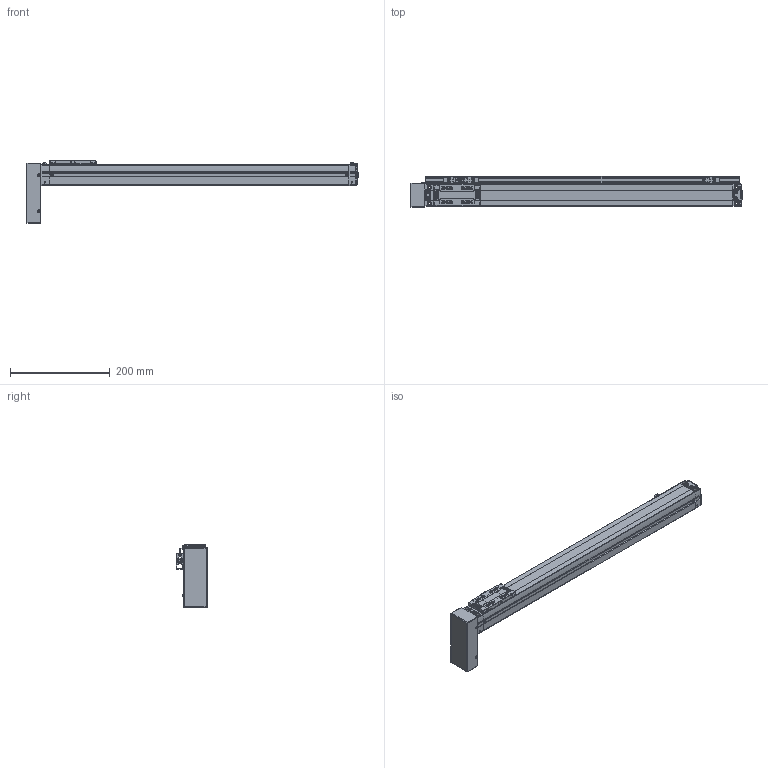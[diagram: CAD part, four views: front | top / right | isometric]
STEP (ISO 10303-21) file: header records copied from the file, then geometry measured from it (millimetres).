
FILE_DESCRIPTION(('STEP AP214'),'1');
FILE_NAME('Z:/Web/3D/SAN45/2013.ver/STP/SAN45ㅁㅁ-500PB+3SL.stp','2013-05-15T12:07:39',(' '),(' '),'Spatial InterOp 3D',' ',' ');
FILE_SCHEMA(('automotive_design'));
Length unit declared in the file: millimetre
Products named in the file (46): BODY-SAN45; REAR-SAN45; RRCV-SAN45; BHCS M3 x 6L; BHCS M3 X 6L; FRONT-SAN45; SHAFT; RN8 x 0.75; SSFX-SAN45; SLIDE-SAN45; SLCV-IM45; FHCS M3 x 6L; BTCV-SAN45; SRL-16x17-380L; EE-SX674; SBK-SX674-352; SDG-SA45; SCREW M3 x 5L
Bounding box: 666.15 x 64.06 x 126 mm (x, y, z)
Volume: 1388410.6 mm3; surface area: 271708.7 mm2
Topology: 46 solids, 46 shells, 2356 faces, 6085 edges, 3898 vertices
Faces by surface type: plane 1288, cylinder 742, cone 160, sphere 84, bspline 44, torus 32, extrusion 6
Entity records: 95272 total; most frequent: CARTESIAN_POINT 16948, DIRECTION 12657, ORIENTED_EDGE 12002, EDGE_CURVE 6001, AXIS2_PLACEMENT_3D 4426, VERTEX_POINT 3898, VECTOR 3805, LINE 3799
